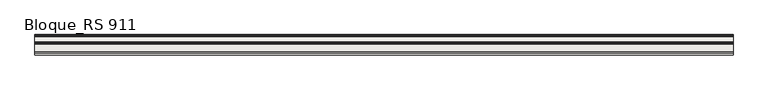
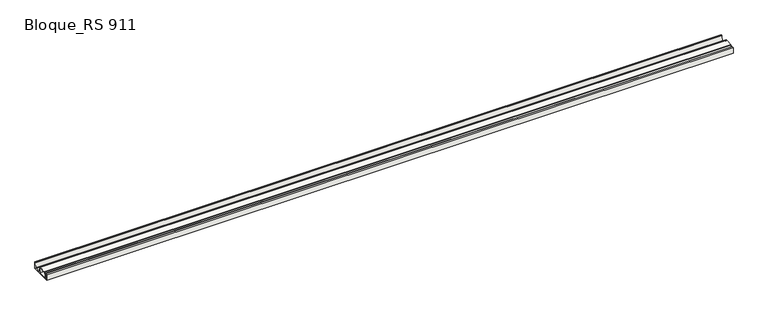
"""IFC4 building model written with IfcOpenShell, lengths in millimetres: slab geometry, ROSA GRES_RS 911 : Bloque_RS 911."""

from ifc_helpers import new_model, si_unit, point, frame, frame_2d, origin, place, context, project, spatial, polyline, circle_curve, trimmed, segment, composite_curve, outline, extrude, source, transform, mapped, element, save


def bloque_rs_911_6005e5c2(model_context):
    return source(origin(), model_context, "Body", "SweptSolid", [
        extrude(outline(composite_curve([segment(polyline([(12.836227, 1.7539108), (12.836227, 171.9333029), (67.836227, 176.4100471), (67.836227, 173.8170239), (72.836227, 173.8170239), (72.836227, 176.8170239), (125.1172881, 181.0724591), (123.836227, 196.8112099), (343.836227, 214.7181867), (343.836227, 216.3460936), (363.836227, 216.3460936), (363.836227, 206.3460936), (381.836227, 206.3460936), (393.5484732, 55.2086635)]), True, "CONTINUOUS"), segment(trimmed(circle_curve(frame_2d((413.4886891, 56.7539108)), 20.0), [point((393.5484732, 55.2086635))], [point((413.4886891, 36.7539108))], True, "CARTESIAN"), True, "CONTINUOUS"), segment(polyline([(413.4886891, 36.7539108), (567.1837649, 36.7539108)]), True, "CONTINUOUS"), segment(trimmed(circle_curve(frame_2d((567.1837649, 56.7539108)), 20.0), [point((567.1837649, 36.7539108))], [point((587.1239808, 55.2086635))], True, "CARTESIAN"), True, "CONTINUOUS"), segment(polyline([(587.1239808, 55.2086635), (598.836227, 206.3460936), (616.836227, 206.3460936), (616.836227, 216.3460936), (626.836227, 216.3460936), (626.836227, 1.7539108), (12.836227, 1.7539108)]), True, "CONTINUOUS")], self_intersect=False), holes=[composite_curve([segment(trimmed(circle_curve(frame_2d((59.836227, 140.6431347)), 8.0), [point((67.836227, 140.6431347))], [point((59.1872106, 148.6167648))], True, "CARTESIAN"), True, "CONTINUOUS"), segment(polyline([(59.1872106, 148.6167648), (47.1872106, 147.6400206)]), True, "CONTINUOUS"), segment(trimmed(circle_curve(frame_2d((47.836227, 139.6663905)), 8.0), [point((47.1872106, 147.6400206))], [point((39.836227, 139.6663905))], True, "CARTESIAN"), True, "CONTINUOUS"), segment(polyline([(39.836227, 139.6663905), (39.836227, 36.7539108)]), True, "CONTINUOUS"), segment(trimmed(circle_curve(frame_2d((47.836227, 36.7539108)), 8.0), [point((39.836227, 36.7539108))], [point((47.836227, 28.7539108))], True, "CARTESIAN"), True, "CONTINUOUS"), segment(polyline([(47.836227, 28.7539108), (59.836227, 28.7539108)]), True, "CONTINUOUS"), segment(trimmed(circle_curve(frame_2d((59.836227, 36.7539108)), 8.0), [point((59.836227, 28.7539108))], [point((67.836227, 36.7539108))], True, "CARTESIAN"), True, "CONTINUOUS"), segment(polyline([(67.836227, 36.7539108), (67.836227, 140.6431347)]), True, "CONTINUOUS")], self_intersect=False), composite_curve([segment(trimmed(circle_curve(frame_2d((187.3063127, 84.534333)), 85.0), [point((180.4105134, 169.2541533))], [point((102.3063127, 84.534333))], True, "CARTESIAN"), True, "CONTINUOUS"), segment(polyline([(102.3063127, 84.534333), (102.3063127, 28.7539108), (356.3063127, 28.7539108), (356.3063127, 161.8772036)]), True, "CONTINUOUS"), segment(trimmed(circle_curve(frame_2d((336.3063127, 161.8772036)), 20.0), [point((356.3063127, 161.8772036))], [point((334.6837717, 181.811279))], True, "CARTESIAN"), True, "CONTINUOUS"), segment(polyline([(334.6837717, 181.811279), (180.4105134, 169.2541533)]), True, "CONTINUOUS")], self_intersect=False)]), frame((0.0, 0.0, 0.0), z_axis=(1.0, 0.0, 0.0), x_axis=(0.0, 1.0, 0.0)), (0.0, 0.0, 1.0), 20888.531773),
    ])


if __name__ == "__main__":
    model = new_model("IFC4")
    model_context = context("Model", 3, world=origin())
    ifc_project = project(units=[si_unit("LENGTHUNIT", "METRE", prefix="MILLI")], contexts=[model_context])
    site = spatial("IfcSite", under=ifc_project)
    building = spatial("IfcBuilding", under=site)
    placement = place(None, origin())
    bloque_rs_911_shape = bloque_rs_911_6005e5c2(model_context)
    element("IfcSlab", 1, ObjectType="ROSA GRES_RS 911 : Bloque_RS 911", at=placement, inside=building, context=model_context, shape_type="MappedRepresentation", body=[
        mapped(bloque_rs_911_shape, transform((0.0, 0.0, 0.0), x_axis=(1.0, 0.0, 0.0), y_axis=(0.0, 1.0, 0.0), z_axis=(0.0, 0.0, 1.0))),
    ])
    save(model, "model.ifc")
